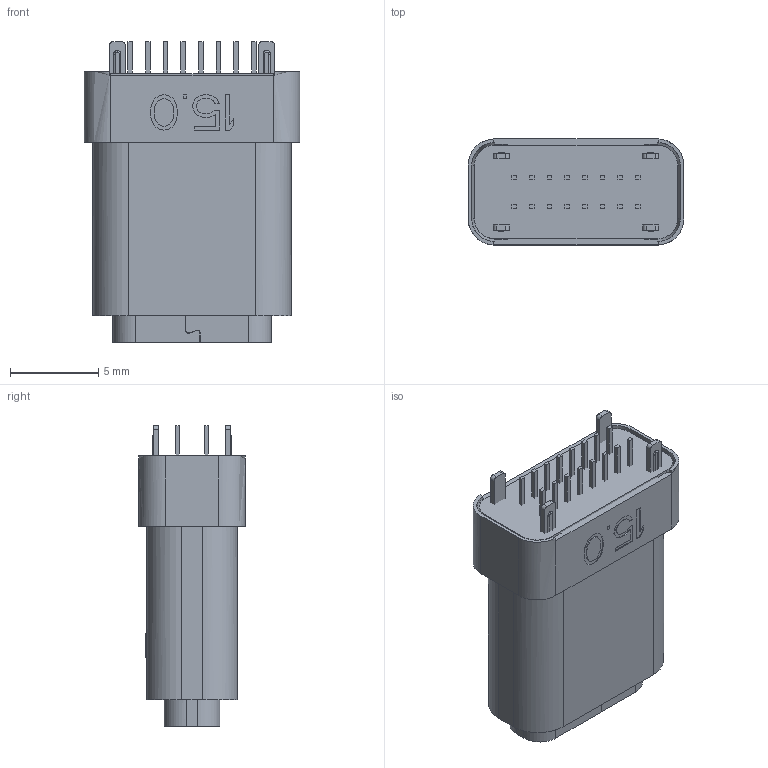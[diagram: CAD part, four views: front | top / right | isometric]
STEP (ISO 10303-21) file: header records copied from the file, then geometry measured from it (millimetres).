
FILE_DESCRIPTION (( 'STEP AP203' ), '1' );
FILE_NAME ('U5487-16PN15.3LF.STEP', '2026-09-23T06:41:35', ( '' ), ( '' ), 'SwSTEP 2.0', 'SolidWorks 2020', '' );
FILE_SCHEMA (( 'CONFIG_CONTROL_DESIGN' ));
Products named in the file (1): U5487-16PN15.3LF
Bounding box: 12.2 x 6 x 17 mm (x, y, z)
Surface area: 2198 mm2 (no closed solid volume)
Topology: 0 solids, 12 shells, 1002 faces, 2832 edges, 1880 vertices
Faces by surface type: bspline 952, plane 50
Entity records: 34716 total; most frequent: CARTESIAN_POINT 17562, ORIENTED_EDGE 5650, EDGE_CURVE 2828, B_SPLINE_CURVE_WITH_KNOTS 2295, VERTEX_POINT 1878, EDGE_LOOP 1055, FACE_OUTER_BOUND 1002, ADVANCED_FACE 1002
